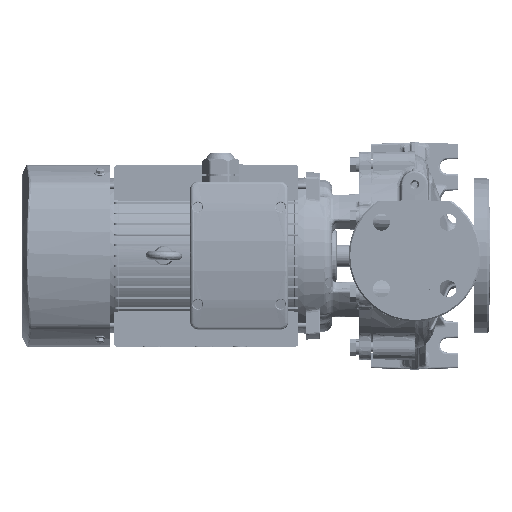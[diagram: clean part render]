
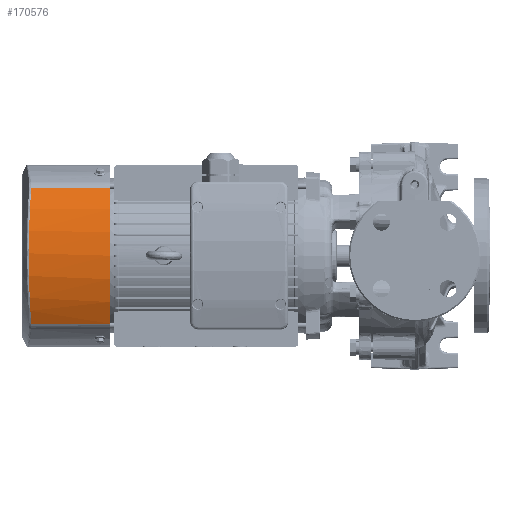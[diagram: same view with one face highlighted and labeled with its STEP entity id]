
A CAD part, top view. The second image highlights one B-rep face of the part: STEP entity #170576.
In plain terms, the highlighted cylindrical face has radius 149 mm (diameter 298 mm), a partial arc.
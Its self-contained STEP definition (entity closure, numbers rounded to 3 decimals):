
#1619 = DIRECTION ( 'NONE',  ( 0., 0., -1. ) ) ;
#3908 = EDGE_CURVE ( 'NONE', #14907, #105223, #80557, .T. ) ;
#7259 = CARTESIAN_POINT ( 'NONE',  ( -291.755, 39.774, 92.338 ) ) ;
#9070 = EDGE_CURVE ( 'NONE', #14907, #53312, #52710, .T. ) ;
#9303 = CARTESIAN_POINT ( 'NONE',  ( -290.308, 66.298, 82.333 ) ) ;
#10328 = CARTESIAN_POINT ( 'NONE',  ( -291.851, 37.353, 92.984 ) ) ;
#11379 = CARTESIAN_POINT ( 'NONE',  ( -291.842, 37.576, 92.926 ) ) ;
#14007 = CARTESIAN_POINT ( 'NONE',  ( -299.723, -72.169, 79.134 ) ) ;
#14907 = VERTEX_POINT ( 'NONE', #48488 ) ;
#17273 = CYLINDRICAL_SURFACE ( 'NONE', #31039, 149. ) ;
#20329 = ORIENTED_EDGE ( 'NONE', *, *, #3908, .T. ) ;
#22873 = CARTESIAN_POINT ( 'NONE',  ( -291.88, -36.681, 93.179 ) ) ;
#23171 = EDGE_LOOP ( 'NONE', ( #84054, #20329, #115461, #24227 ) ) ;
#23910 = CARTESIAN_POINT ( 'NONE',  ( -291.83, 37.89, 92.844 ) ) ;
#24227 = ORIENTED_EDGE ( 'NONE', *, *, #109696, .F. ) ;
#31039 = AXIS2_PLACEMENT_3D ( 'NONE', #94413, #128656, #1619 ) ;
#39542 = CARTESIAN_POINT ( 'NONE',  ( -291.906, -36.003, 93.351 ) ) ;
#40575 = CARTESIAN_POINT ( 'NONE',  ( -289.865, -72.169, 79.134 ) ) ;
#48488 = CARTESIAN_POINT ( 'NONE',  ( -289.865, 72.08, 79.134 ) ) ;
#52710 = LINE ( 'NONE', #129729, #145891 ) ;
#52974 = CARTESIAN_POINT ( 'NONE',  ( -206.723, -72.169, 79.134 ) ) ;
#53312 = VERTEX_POINT ( 'NONE', #198185 ) ;
#55189 = CARTESIAN_POINT ( 'NONE',  ( -291.71, 40.853, 92.033 ) ) ;
#56183 = CARTESIAN_POINT ( 'NONE',  ( -290.695, -60.546, 85.061 ) ) ;
#57211 = CARTESIAN_POINT ( 'NONE',  ( -290.307, -66.388, 82.332 ) ) ;
#58249 = CARTESIAN_POINT ( 'NONE',  ( -291.617, 43.015, 91.404 ) ) ;
#64186 = FACE_OUTER_BOUND ( 'NONE', #23171, .T. ) ;
#70852 = CARTESIAN_POINT ( 'NONE',  ( -292.123, -29.589, 94.804 ) ) ;
#72850 = CARTESIAN_POINT ( 'NONE',  ( -291.344, 48.806, 89.551 ) ) ;
#73893 = CARTESIAN_POINT ( 'NONE',  ( -292.074, -31.146, 94.48 ) ) ;
#74923 = CARTESIAN_POINT ( 'NONE',  ( -292.093, 31.061, 94.611 ) ) ;
#77570 = DIRECTION ( 'NONE',  ( 1., 0., 0. ) ) ;
#80557 = B_SPLINE_CURVE_WITH_KNOTS ( 'NONE', 3,
 ( #149919, #9303, #181275, #154047, #72850, #152994, #58249, #55189, #7259, #118682, #23910, #11379, #120742, #10328, #135322, #184331, #74923, #88493, #103052, #134307, #138417, #182273, #198950, #165598, #70852, #73893, #168666, #102036, #39542, #22873, #119711, #199991, #166614, #106141, #87474, #150973, #137385, #56183, #57211, #40575 ),
 .UNSPECIFIED., .F., .F.,
 ( 4, 2, 2, 2, 1, 1, 1, 1, 1, 2, 2, 2, 2, 2, 2, 2, 1, 1, 1, 1, 1, 2, 2, 2, 4 ),
 ( 0., 0.125, 0.187, 0.219, 0.234, 0.242, 0.246, 0.248, 0.249, 0.25, 0.25, 0.375, 0.5, 0.625, 0.688, 0.719, 0.734, 0.742, 0.746, 0.748, 0.749, 0.75, 0.75, 0.875, 1. ),
 .UNSPECIFIED. ) ;
#84054 = ORIENTED_EDGE ( 'NONE', *, *, #9070, .F. ) ;
#85741 = CARTESIAN_POINT ( 'NONE',  ( -206.723, -0.045, -51.246 ) ) ;
#87474 = CARTESIAN_POINT ( 'NONE',  ( -291.855, -37.338, 93.011 ) ) ;
#88493 = CARTESIAN_POINT ( 'NONE',  ( -292.272, 24.815, 95.8 ) ) ;
#94413 = CARTESIAN_POINT ( 'NONE',  ( -299.723, -0.045, -51.246 ) ) ;
#99122 = CIRCLE ( 'NONE', #159044, 149. ) ;
#102036 = CARTESIAN_POINT ( 'NONE',  ( -291.955, -34.644, 93.685 ) ) ;
#103052 = CARTESIAN_POINT ( 'NONE',  ( -292.511, 12.343, 97.371 ) ) ;
#105223 = VERTEX_POINT ( 'NONE', #161381 ) ;
#106141 = CARTESIAN_POINT ( 'NONE',  ( -291.856, -37.311, 93.018 ) ) ;
#109696 = EDGE_CURVE ( 'NONE', #53312, #112795, #99122, .T. ) ;
#112795 = VERTEX_POINT ( 'NONE', #52974 ) ;
#113336 = EDGE_CURVE ( 'NONE', #105223, #112795, #172358, .T. ) ;
#114159 = DIRECTION ( 'NONE',  ( 1., 0., 0. ) ) ;
#115461 = ORIENTED_EDGE ( 'NONE', *, *, #113336, .T. ) ;
#118682 = CARTESIAN_POINT ( 'NONE',  ( -291.806, 38.517, 92.678 ) ) ;
#119711 = CARTESIAN_POINT ( 'NONE',  ( -291.867, -37.021, 93.093 ) ) ;
#120742 = CARTESIAN_POINT ( 'NONE',  ( -291.849, 37.42, 92.967 ) ) ;
#128656 = DIRECTION ( 'NONE',  ( 1., 0., 0. ) ) ;
#129729 = CARTESIAN_POINT ( 'NONE',  ( -299.723, 72.08, 79.134 ) ) ;
#134307 = CARTESIAN_POINT ( 'NONE',  ( -292.571, 6.117, 97.754 ) ) ;
#135322 = CARTESIAN_POINT ( 'NONE',  ( -291.853, 37.308, 92.996 ) ) ;
#137385 = CARTESIAN_POINT ( 'NONE',  ( -291.358, -48.896, 89.657 ) ) ;
#138417 = CARTESIAN_POINT ( 'NONE',  ( -292.571, -6.213, 97.753 ) ) ;
#145891 = VECTOR ( 'NONE', #114159, 1000. ) ;
#149919 = CARTESIAN_POINT ( 'NONE',  ( -289.865, 72.08, 79.134 ) ) ;
#150973 = CARTESIAN_POINT ( 'NONE',  ( -291.634, -43.088, 91.524 ) ) ;
#151281 = DIRECTION ( 'NONE',  ( 1., 0., 0. ) ) ;
#152994 = CARTESIAN_POINT ( 'NONE',  ( -291.551, 44.461, 90.96 ) ) ;
#154047 = CARTESIAN_POINT ( 'NONE',  ( -291.192, 51.715, 88.51 ) ) ;
#159044 = AXIS2_PLACEMENT_3D ( 'NONE', #85741, #151281, #184648 ) ;
#159175 = VECTOR ( 'NONE', #77570, 1000. ) ;
#161381 = CARTESIAN_POINT ( 'NONE',  ( -289.865, -72.169, 79.134 ) ) ;
#165598 = CARTESIAN_POINT ( 'NONE',  ( -292.257, -24.914, 95.698 ) ) ;
#166614 = CARTESIAN_POINT ( 'NONE',  ( -291.858, -37.263, 93.03 ) ) ;
#168666 = CARTESIAN_POINT ( 'NONE',  ( -291.996, -33.479, 93.956 ) ) ;
#170576 = ADVANCED_FACE ( 'NONE', ( #64186 ), #17273, .T. ) ;
#172358 = LINE ( 'NONE', #14007, #159175 ) ;
#181275 = CARTESIAN_POINT ( 'NONE',  ( -290.695, 60.454, 85.062 ) ) ;
#182273 = CARTESIAN_POINT ( 'NONE',  ( -292.511, -12.439, 97.37 ) ) ;
#184331 = CARTESIAN_POINT ( 'NONE',  ( -291.854, 37.287, 93.001 ) ) ;
#184648 = DIRECTION ( 'NONE',  ( 0., 0., -1. ) ) ;
#198185 = CARTESIAN_POINT ( 'NONE',  ( -206.723, 72.08, 79.134 ) ) ;
#198950 = CARTESIAN_POINT ( 'NONE',  ( -292.332, -21.793, 96.191 ) ) ;
#199991 = CARTESIAN_POINT ( 'NONE',  ( -291.861, -37.19, 93.049 ) ) ;
